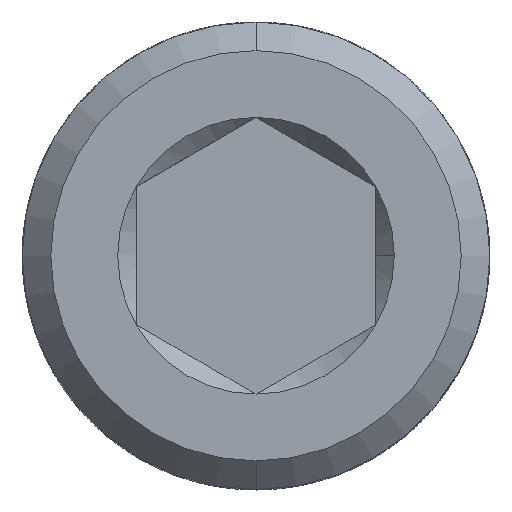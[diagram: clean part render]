
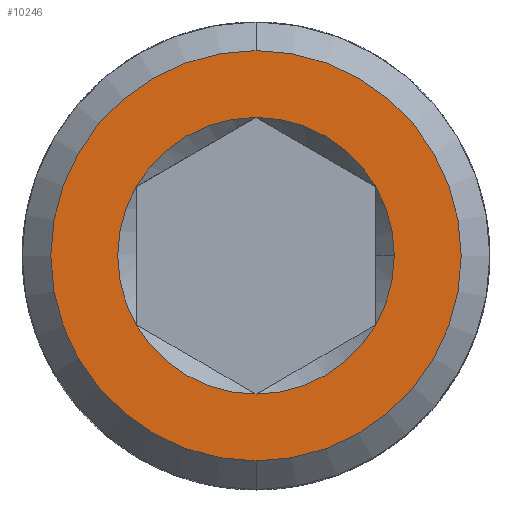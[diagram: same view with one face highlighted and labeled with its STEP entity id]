
A CAD part, top view. The second image highlights one B-rep face of the part: STEP entity #10246.
In plain terms, the highlighted planar face has unit normal (0, 0, 1).
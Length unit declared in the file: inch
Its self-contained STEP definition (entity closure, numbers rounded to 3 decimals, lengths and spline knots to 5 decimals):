
#586 = DIRECTION ( 'NONE',  ( 0., 0., 1. ) ) ;
#741 = VERTEX_POINT ( 'NONE', #1302 ) ;
#743 = CARTESIAN_POINT ( 'NONE',  ( 0., 0.05413, 0.181 ) ) ;
#804 = CIRCLE ( 'NONE', #9715, 0.05413 ) ;
#887 = CARTESIAN_POINT ( 'NONE',  ( 0., 0., 0.181 ) ) ;
#1011 = AXIS2_PLACEMENT_3D ( 'NONE', #4375, #9282, #2933 ) ;
#1302 = CARTESIAN_POINT ( 'NONE',  ( 0., -0.0803, 0.181 ) ) ;
#2188 = ORIENTED_EDGE ( 'NONE', *, *, #9041, .F. ) ;
#2344 = VERTEX_POINT ( 'NONE', #15557 ) ;
#2761 = ORIENTED_EDGE ( 'NONE', *, *, #8490, .F. ) ;
#2933 = DIRECTION ( 'NONE',  ( 0., -1., 0. ) ) ;
#3152 = VERTEX_POINT ( 'NONE', #8235 ) ;
#3236 = DIRECTION ( 'NONE',  ( 1., 0., 0. ) ) ;
#3543 = ORIENTED_EDGE ( 'NONE', *, *, #12894, .F. ) ;
#3650 = CARTESIAN_POINT ( 'NONE',  ( 0.04688, -0.02706, 0.181 ) ) ;
#3853 = DIRECTION ( 'NONE',  ( 1., 0., 0. ) ) ;
#4252 = CIRCLE ( 'NONE', #9878, 0.05413 ) ;
#4375 = CARTESIAN_POINT ( 'NONE',  ( 0., 0., 0.181 ) ) ;
#4971 = EDGE_CURVE ( 'NONE', #6378, #14291, #4252, .T. ) ;
#5084 = CARTESIAN_POINT ( 'NONE',  ( 0., 0., 0.181 ) ) ;
#5106 = DIRECTION ( 'NONE',  ( 1., 0., 0. ) ) ;
#5210 = DIRECTION ( 'NONE',  ( 1., 0., 0. ) ) ;
#5527 = CIRCLE ( 'NONE', #11975, 0.05413 ) ;
#5845 = AXIS2_PLACEMENT_3D ( 'NONE', #14710, #586, #9647 ) ;
#5884 = DIRECTION ( 'NONE',  ( 1., 0., 0. ) ) ;
#5924 = CARTESIAN_POINT ( 'NONE',  ( 0., 0., 0.181 ) ) ;
#6304 = DIRECTION ( 'NONE',  ( 0., 0., 1. ) ) ;
#6378 = VERTEX_POINT ( 'NONE', #8401 ) ;
#6438 = VERTEX_POINT ( 'NONE', #7105 ) ;
#6536 = CARTESIAN_POINT ( 'NONE',  ( 0., 0., 0.181 ) ) ;
#6842 = EDGE_CURVE ( 'NONE', #2344, #7194, #7812, .T. ) ;
#6879 = ORIENTED_EDGE ( 'NONE', *, *, #14742, .F. ) ;
#7105 = CARTESIAN_POINT ( 'NONE',  ( -0.04687, -0.02706, 0.181 ) ) ;
#7194 = VERTEX_POINT ( 'NONE', #743 ) ;
#7349 = DIRECTION ( 'NONE',  ( 0., 1., 0. ) ) ;
#7536 = ORIENTED_EDGE ( 'NONE', *, *, #14217, .F. ) ;
#7812 = CIRCLE ( 'NONE', #8925, 0.05413 ) ;
#7978 = EDGE_LOOP ( 'NONE', ( #8580, #2761, #15187, #2188, #16650, #6879, #7536 ) ) ;
#8139 = PLANE ( 'NONE',  #1011 ) ;
#8235 = CARTESIAN_POINT ( 'NONE',  ( 0.05413, 0., 0.181 ) ) ;
#8327 = AXIS2_PLACEMENT_3D ( 'NONE', #6536, #15526, #11535 ) ;
#8363 = VERTEX_POINT ( 'NONE', #9212 ) ;
#8401 = CARTESIAN_POINT ( 'NONE',  ( 0., -0.05413, 0.181 ) ) ;
#8420 = CARTESIAN_POINT ( 'NONE',  ( 0., 0., 0.181 ) ) ;
#8490 = EDGE_CURVE ( 'NONE', #6438, #6378, #5527, .T. ) ;
#8580 = ORIENTED_EDGE ( 'NONE', *, *, #4971, .F. ) ;
#8581 = AXIS2_PLACEMENT_3D ( 'NONE', #9195, #9025, #3853 ) ;
#8765 = CIRCLE ( 'NONE', #8327, 0.0803 ) ;
#8925 = AXIS2_PLACEMENT_3D ( 'NONE', #10890, #9990, #5884 ) ;
#9025 = DIRECTION ( 'NONE',  ( 0., 0., 1. ) ) ;
#9041 = EDGE_CURVE ( 'NONE', #7194, #8363, #10762, .T. ) ;
#9195 = CARTESIAN_POINT ( 'NONE',  ( 0., 0., 0.181 ) ) ;
#9207 = VERTEX_POINT ( 'NONE', #13638 ) ;
#9212 = CARTESIAN_POINT ( 'NONE',  ( -0.04688, 0.02706, 0.181 ) ) ;
#9282 = DIRECTION ( 'NONE',  ( 0., 0., 1. ) ) ;
#9647 = DIRECTION ( 'NONE',  ( 1., 0., 0. ) ) ;
#9715 = AXIS2_PLACEMENT_3D ( 'NONE', #10072, #6304, #5106 ) ;
#9815 = DIRECTION ( 'NONE',  ( 0., 0., 1. ) ) ;
#9878 = AXIS2_PLACEMENT_3D ( 'NONE', #5924, #9815, #3236 ) ;
#9990 = DIRECTION ( 'NONE',  ( 0., 0., 1. ) ) ;
#10072 = CARTESIAN_POINT ( 'NONE',  ( 0., 0., 0.181 ) ) ;
#10246 = ADVANCED_FACE ( 'NONE', ( #10737, #13541 ), #8139, .T. ) ;
#10737 = FACE_BOUND ( 'NONE', #7978, .T. ) ;
#10762 = CIRCLE ( 'NONE', #5845, 0.05413 ) ;
#10890 = CARTESIAN_POINT ( 'NONE',  ( 0., 0., 0.181 ) ) ;
#11188 = ORIENTED_EDGE ( 'NONE', *, *, #16654, .F. ) ;
#11291 = CIRCLE ( 'NONE', #8581, 0.05413 ) ;
#11303 = CIRCLE ( 'NONE', #13649, 0.0803 ) ;
#11535 = DIRECTION ( 'NONE',  ( 0., 1., 0. ) ) ;
#11562 = DIRECTION ( 'NONE',  ( 0., 0., 1. ) ) ;
#11975 = AXIS2_PLACEMENT_3D ( 'NONE', #8420, #12475, #12306 ) ;
#11983 = AXIS2_PLACEMENT_3D ( 'NONE', #5084, #11562, #5210 ) ;
#12306 = DIRECTION ( 'NONE',  ( 1., 0., 0. ) ) ;
#12465 = CIRCLE ( 'NONE', #11983, 0.05413 ) ;
#12475 = DIRECTION ( 'NONE',  ( 0., 0., 1. ) ) ;
#12894 = EDGE_CURVE ( 'NONE', #741, #9207, #11303, .T. ) ;
#13119 = EDGE_CURVE ( 'NONE', #8363, #6438, #11291, .T. ) ;
#13541 = FACE_OUTER_BOUND ( 'NONE', #14259, .T. ) ;
#13638 = CARTESIAN_POINT ( 'NONE',  ( 0., 0.0803, 0.181 ) ) ;
#13649 = AXIS2_PLACEMENT_3D ( 'NONE', #887, #15055, #7349 ) ;
#14217 = EDGE_CURVE ( 'NONE', #14291, #3152, #804, .T. ) ;
#14259 = EDGE_LOOP ( 'NONE', ( #11188, #3543 ) ) ;
#14291 = VERTEX_POINT ( 'NONE', #3650 ) ;
#14710 = CARTESIAN_POINT ( 'NONE',  ( 0., 0., 0.181 ) ) ;
#14742 = EDGE_CURVE ( 'NONE', #3152, #2344, #12465, .T. ) ;
#15055 = DIRECTION ( 'NONE',  ( 0., 0., -1. ) ) ;
#15187 = ORIENTED_EDGE ( 'NONE', *, *, #13119, .F. ) ;
#15526 = DIRECTION ( 'NONE',  ( 0., 0., -1. ) ) ;
#15557 = CARTESIAN_POINT ( 'NONE',  ( 0.04687, 0.02706, 0.181 ) ) ;
#16650 = ORIENTED_EDGE ( 'NONE', *, *, #6842, .F. ) ;
#16654 = EDGE_CURVE ( 'NONE', #9207, #741, #8765, .T. ) ;
